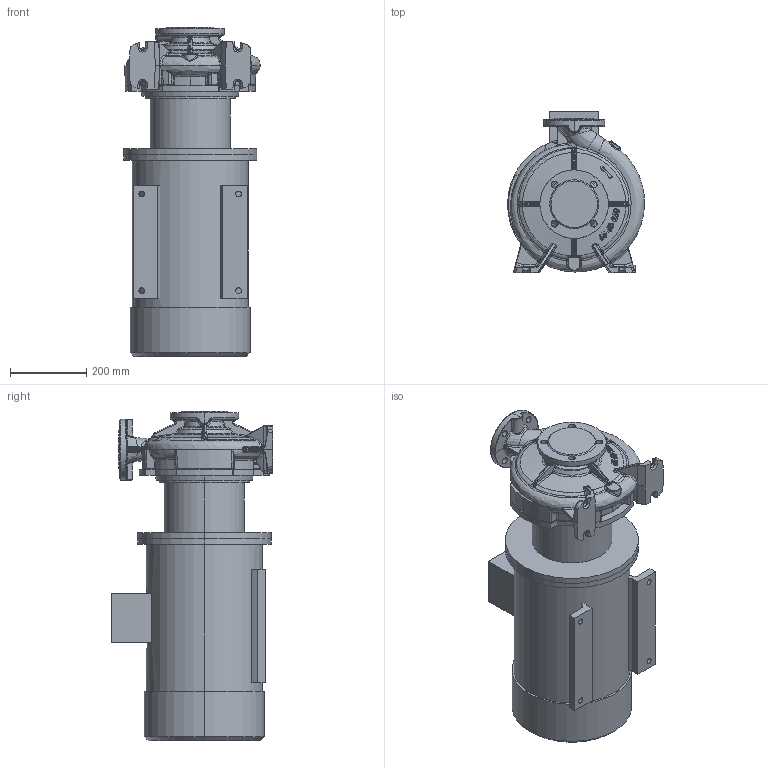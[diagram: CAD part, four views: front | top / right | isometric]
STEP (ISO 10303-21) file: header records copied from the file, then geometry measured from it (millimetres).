
FILE_DESCRIPTION (( 'STEP AP214' ), '1' );
FILE_NAME ('KRM 65-50-250-18,5.STEP', '2026-04-24T13:30:53', ( '' ), ( '' ), 'SwSTEP 2.0', 'SolidWorks 2016', '' );
FILE_SCHEMA (( 'AUTOMOTIVE_DESIGN' ));
Length unit declared in the file: millimetre
Products named in the file (1): KRM 65-50-250-18,5
Bounding box: 359.64 x 425 x 864 mm (x, y, z)
Volume: 61706653.8 mm3; surface area: 1934376.1 mm2
Topology: 4 solids, 4 shells, 1169 faces, 2832 edges, 1679 vertices
Faces by surface type: bspline 550, cylinder 224, plane 212, torus 83, cone 83, sphere 17
Entity records: 85891 total; most frequent: CARTESIAN_POINT 50334, ORIENTED_EDGE 5610, DIRECTION 3540, EDGE_CURVE 2805, VERTEX_POINT 1679, AXIS2_PLACEMENT_3D 1465, EDGE_LOOP 1228, UNCERTAINTY_MEASURE_WITH_UNIT 1175
